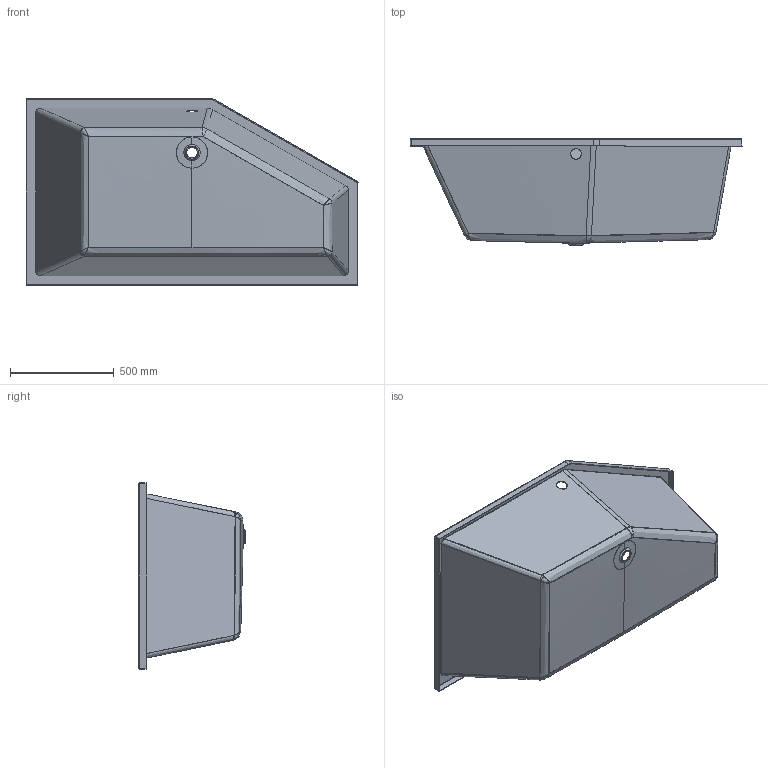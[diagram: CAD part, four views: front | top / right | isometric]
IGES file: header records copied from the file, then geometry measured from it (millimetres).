
Start section: SolidWorks IGES file using NURBS representation for surfaces
Global section: file name: D:\JÚLIO\#1# PRODUTOS\BANHEIRAS\Delta\801500 - banheira 160x90 drt\biblioteca 3D\801500_igs.IGS; native system: SolidWorks 2018; preprocessor: SolidWorks 2018; author: Julio; date: 180614.174515; units: millimetre
Bounding box: 1600.22 x 513.2 x 900.22 mm (x, y, z)
Surface area: 5726707.9 mm2 (no closed solid volume)
Topology: 0 solids, 0 shells, 273 faces, 2713 edges, 2711 vertices
Faces by surface type: bspline 273
